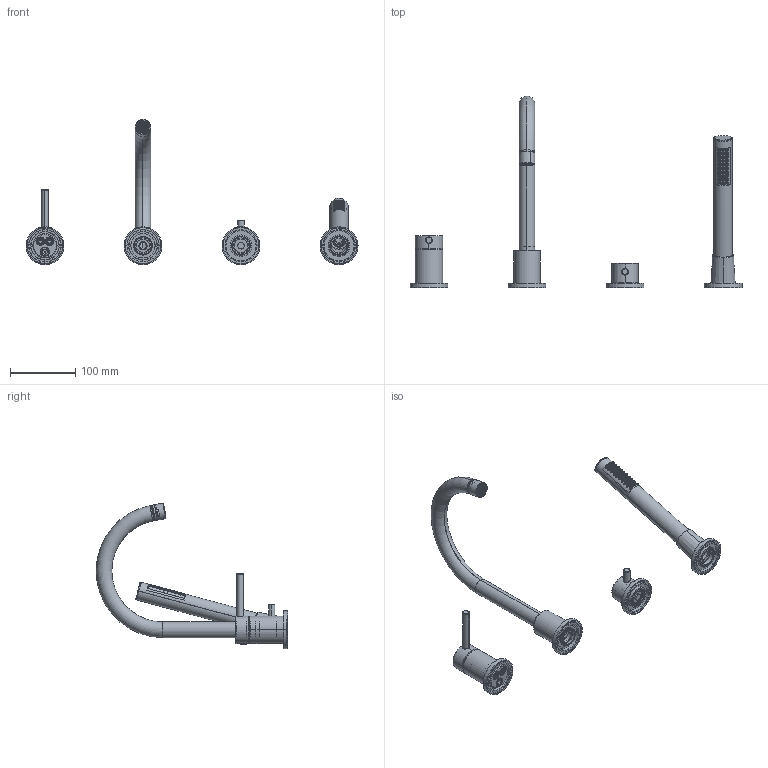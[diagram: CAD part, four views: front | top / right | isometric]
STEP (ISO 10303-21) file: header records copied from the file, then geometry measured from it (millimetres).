
FILE_DESCRIPTION((''),'2;1');
FILE_NAME('FY-669017_ASM_ASM','2025-03-31T11:19:00',('S'),(''),'CREO PARAMETRIC BY PTC INC, 2021023','CREO PARAMETRIC BY PTC INC, 2021023','');
FILE_SCHEMA(('AUTOMOTIVE_DESIGN { 1 0 10303 214 1 1 1 1 }'));
Length unit declared in the file: millimetre
Products named in the file (96): 5DZ-001029-ACR_AF0_1; 5HZ-001009-ACR_AF0_1; 4LG-001017-AJJ_AF0_1; 3JQ-001274-NAA_AF0_1; 3JQ-001475-NAA_AF0_1; 3PD-001005-JAA_AF0_1; 4LM-001024-AJJ_AF0_1; 3LS-001287-JAA_AF0_1; 3SS-001002-KAA_AF0_1; 3LS-001287-JAA_AF1_1; 3JQ-001171-NAA_AF0_1; GE17CR_AF0_ASM_1_ASM; 5DZ-001055-ACR_AF0_1; 5ZT-669017-ACR_AF0_1; 3FX-001038-MMA-1_AF0_1; 3FX-001038-MAA-2_AF0_1; 3FX-001038-MAA_AF0_ASM_1_ASM; 3JQ-001274-NAA_AF1_1; 3YG-001009-AJJ_AF0_1; 4LG-001019-AJJ_AF0_1; 3JQ-001556-NAA_AF0_1; 3PD-001014-KAA_AF0_1; 4LM-001004-AJJ_AF0_1; 3JQ-001557-NAA_AF0_1; 4JT-001021-AJJ_AF0_1; 2105-_AF00_ASM_1_ASM; 3ZG-010027-MCR_AF0_1; 5BS-139017-1-ACR_AF0_1; 5BS-139017-2-ACR_AF0_1; 3LS-001077-JAA_AF0_1; 3LS-001044-JAA_AF0_1; 3SN-001002-MCR_AF0_1; 139017_AF_ASM_1_ASM; 3JQ-001195-NAA_AF0_1; 3RG-001142-JCR_AF0_2; 3RG-001142-JCR_AF1_2; 669017_AF0_ASM_1-7877_ASM; 5TT-001092-ACR_AF0_1; 3WG-001055-KCR-1_AF0_1; 3WG-001055-KCR-2_AF0_1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
Assembly tree (95 placements, depth 5):
  FY-669017_ASM_ASM
    FY-669017_ASM_9_ASM
      GE17CR_AF0_ASM_1_ASM
        5DZ-001029-ACR_AF0_1
        5HZ-001009-ACR_AF0_1
        4LG-001017-AJJ_AF0_1
        3JQ-001274-NAA_AF0_1
        3JQ-001475-NAA_AF0_1
        3PD-001005-JAA_AF0_1
        4LM-001024-AJJ_AF0_1
        3LS-001287-JAA_AF0_1
        3SS-001002-KAA_AF0_1
        3LS-001287-JAA_AF1_1
        3JQ-001171-NAA_AF0_1
      669017_AF0_ASM_1-7877_ASM
        5DZ-001055-ACR_AF0_1
        5ZT-669017-ACR_AF0_1
        3FX-001038-MAA_AF0_ASM_1_ASM
          3FX-001038-MMA-1_AF0_1
          3FX-001038-MAA-2_AF0_1
        3JQ-001274-NAA_AF1_1
        3YG-001009-AJJ_AF0_1
        2105-_AF00_ASM_1_ASM
          4LG-001019-AJJ_AF0_1
          3JQ-001556-NAA_AF0_1
          3PD-001014-KAA_AF0_1
          4LM-001004-AJJ_AF0_1
          3JQ-001557-NAA_AF0_1
          4JT-001021-AJJ_AF0_1
        3ZG-010027-MCR_AF0_1
        139017_AF_ASM_1_ASM
          5BS-139017-1-ACR_AF0_1
          5BS-139017-2-ACR_AF0_1
          3LS-001077-JAA_AF0_1
          3LS-001044-JAA_AF0_1
          3SN-001002-MCR_AF0_1
        3JQ-001195-NAA_AF0_1
        3RG-001142-JCR_AF0_2
        3RG-001142-JCR_AF1_2
      669017_AF_ASM_2_ASM
        5TT-001092-ACR_AF0_1
        3WG-001055-JCR_AF0_ASM_1_ASM
          3WG-001055-KCR-1_AF0_1
          3WG-001055-KCR-2_AF0_1
          3WG-001055-KCR-3_1
          3WG-001055-KCR-4_1
        3WD-001025-MAA_1
        3JQ-001358-NAA_1
        4JT-001196-EJJ_AF0_1
        3SJ-001048-MAA_AF0_1
        3SJ-001048-MAA_AF1_1
        4LG-001013-EJJ_AF0_1
        3JQ-001095-NAA_AF0_1
        3JQ-001122-NAA_AF0_1
        3JQ-001122-NAA_AF1_1
        3JQ-001149-NAA_AF0_1
        5DZ-001055-ACR_AF1_1
        3JQ-001475-NAA_AF1_1
        3PD-001005-JAA_AF1_1
        4LM-001024-AJJ_AF1_1
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Bounding box: 508 x 293.3 x 222.57 mm (x, y, z)
Volume: 238070.8 mm3; surface area: 250796.9 mm2
Topology: 49 solids, 49 shells, 2808 faces, 7478 edges, 5016 vertices
Faces by surface type: cylinder 1639, plane 789, cone 176, torus 116, bspline 75, sphere 12, extrusion 1
Entity records: 124450 total; most frequent: CARTESIAN_POINT 44945, DIRECTION 14970, ORIENTED_EDGE 14906, EDGE_CURVE 7453, AXIS2_PLACEMENT_3D 6084, VERTEX_POINT 5016, EDGE_LOOP 3707, CIRCLE 3067
